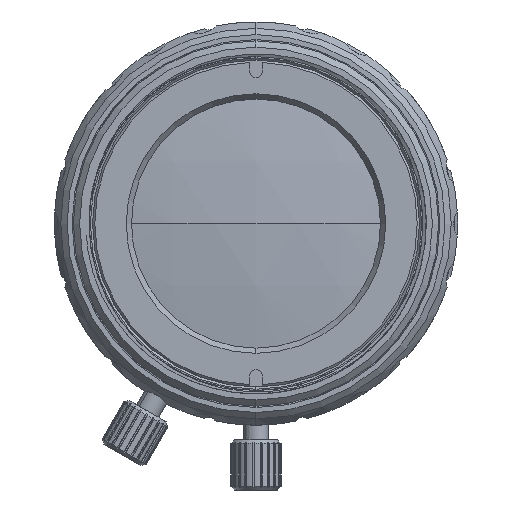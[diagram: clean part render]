
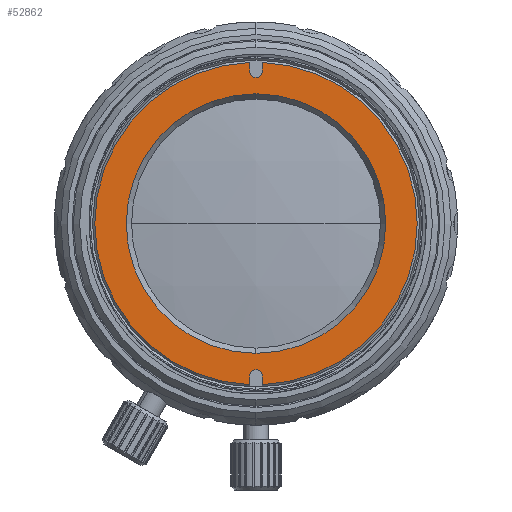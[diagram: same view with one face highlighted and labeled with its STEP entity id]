
A CAD part, left-side view. The second image highlights one B-rep face of the part: STEP entity #52862.
In plain terms, the highlighted planar face has unit normal (-1, 0, 0).
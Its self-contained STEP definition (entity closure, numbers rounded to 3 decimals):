
#585 = EDGE_CURVE ( 'NONE', #16116, #8963, #25397, .T. ) ;
#602 = FACE_OUTER_BOUND ( 'NONE', #9131, .T. ) ;
#715 = ORIENTED_EDGE ( 'NONE', *, *, #2652, .F. ) ;
#878 = DIRECTION ( 'NONE',  ( 0., 0., 1. ) ) ;
#1665 = CARTESIAN_POINT ( 'NONE',  ( -1.528, -0.5, -12.79 ) ) ;
#2154 = EDGE_CURVE ( 'NONE', #16116, #53237, #57843, .T. ) ;
#2541 = EDGE_CURVE ( 'NONE', #4225, #33985, #4818, .T. ) ;
#2652 = EDGE_CURVE ( 'NONE', #43079, #37573, #54237, .T. ) ;
#3490 = AXIS2_PLACEMENT_3D ( 'NONE', #24019, #19629, #50455 ) ;
#3503 = CARTESIAN_POINT ( 'NONE',  ( -1.528, 0.5, 12.1 ) ) ;
#3515 = ORIENTED_EDGE ( 'NONE', *, *, #41484, .T. ) ;
#4225 = VERTEX_POINT ( 'NONE', #37738 ) ;
#4410 = ORIENTED_EDGE ( 'NONE', *, *, #39146, .T. ) ;
#4818 = CIRCLE ( 'NONE', #10483, 0.5 ) ;
#5582 = VECTOR ( 'NONE', #39129, 1000. ) ;
#8193 = CIRCLE ( 'NONE', #3490, 12.8 ) ;
#8963 = VERTEX_POINT ( 'NONE', #3503 ) ;
#9106 = VERTEX_POINT ( 'NONE', #21707 ) ;
#9131 = EDGE_LOOP ( 'NONE', ( #33298, #14573, #40324, #3515, #715, #43018, #21317, #20412, #4410 ) ) ;
#9226 = DIRECTION ( 'NONE',  ( -1., 0., 0. ) ) ;
#10483 = AXIS2_PLACEMENT_3D ( 'NONE', #26361, #30474, #25190 ) ;
#10571 = DIRECTION ( 'NONE',  ( -1., 0., 0. ) ) ;
#11045 = AXIS2_PLACEMENT_3D ( 'NONE', #35362, #9226, #21573 ) ;
#12411 = LINE ( 'NONE', #43845, #5582 ) ;
#13382 = VERTEX_POINT ( 'NONE', #25396 ) ;
#13473 = CARTESIAN_POINT ( 'NONE',  ( -1.528, 0., -11.6 ) ) ;
#14253 = VERTEX_POINT ( 'NONE', #50968 ) ;
#14573 = ORIENTED_EDGE ( 'NONE', *, *, #585, .T. ) ;
#14837 = ORIENTED_EDGE ( 'NONE', *, *, #45795, .F. ) ;
#14978 = CARTESIAN_POINT ( 'NONE',  ( -1.528, 0., 0. ) ) ;
#15932 = DIRECTION ( 'NONE',  ( 0., 0., -1. ) ) ;
#16116 = VERTEX_POINT ( 'NONE', #21052 ) ;
#17620 = DIRECTION ( 'NONE',  ( 0., 0., 1. ) ) ;
#17990 = CIRCLE ( 'NONE', #55480, 10.302 ) ;
#19629 = DIRECTION ( 'NONE',  ( -1., 0., 0. ) ) ;
#20412 = ORIENTED_EDGE ( 'NONE', *, *, #36181, .T. ) ;
#20609 = CARTESIAN_POINT ( 'NONE',  ( -1.528, 0., 12.1 ) ) ;
#21052 = CARTESIAN_POINT ( 'NONE',  ( -1.528, -0.5, 12.1 ) ) ;
#21317 = ORIENTED_EDGE ( 'NONE', *, *, #2541, .F. ) ;
#21573 = DIRECTION ( 'NONE',  ( 0., 0., 1. ) ) ;
#21707 = CARTESIAN_POINT ( 'NONE',  ( -1.528, 0.5, 12.79 ) ) ;
#21925 = CARTESIAN_POINT ( 'NONE',  ( -1.528, 0., -12.1 ) ) ;
#22301 = ORIENTED_EDGE ( 'NONE', *, *, #30683, .F. ) ;
#22370 = EDGE_CURVE ( 'NONE', #33985, #43079, #51871, .T. ) ;
#22475 = LINE ( 'NONE', #53033, #37344 ) ;
#23208 = PLANE ( 'NONE',  #26741 ) ;
#24019 = CARTESIAN_POINT ( 'NONE',  ( -1.528, 0., 0. ) ) ;
#25190 = DIRECTION ( 'NONE',  ( 0., 0., 1. ) ) ;
#25396 = CARTESIAN_POINT ( 'NONE',  ( -1.528, 0., 10.302 ) ) ;
#25397 = CIRCLE ( 'NONE', #44179, 0.5 ) ;
#26337 = DIRECTION ( 'NONE',  ( -1., 0., 0. ) ) ;
#26361 = CARTESIAN_POINT ( 'NONE',  ( -1.528, 0., -12.1 ) ) ;
#26741 = AXIS2_PLACEMENT_3D ( 'NONE', #40828, #10571, #878 ) ;
#29330 = DIRECTION ( 'NONE',  ( -1., 0., 0. ) ) ;
#30142 = VECTOR ( 'NONE', #17620, 1000. ) ;
#30474 = DIRECTION ( 'NONE',  ( -1., 0., 0. ) ) ;
#30683 = EDGE_CURVE ( 'NONE', #13382, #14253, #36348, .T. ) ;
#31912 = DIRECTION ( 'NONE',  ( 0., 0., -1. ) ) ;
#32157 = EDGE_CURVE ( 'NONE', #8963, #9106, #22475, .T. ) ;
#32864 = DIRECTION ( 'NONE',  ( 0., 0., 1. ) ) ;
#32877 = DIRECTION ( 'NONE',  ( -1., 0., 0. ) ) ;
#33298 = ORIENTED_EDGE ( 'NONE', *, *, #2154, .F. ) ;
#33446 = CARTESIAN_POINT ( 'NONE',  ( -1.528, 0., 0. ) ) ;
#33985 = VERTEX_POINT ( 'NONE', #13473 ) ;
#35362 = CARTESIAN_POINT ( 'NONE',  ( -1.528, 0., 0. ) ) ;
#36181 = EDGE_CURVE ( 'NONE', #4225, #57099, #12411, .T. ) ;
#36348 = CIRCLE ( 'NONE', #11045, 10.302 ) ;
#36421 = FACE_BOUND ( 'NONE', #46137, .T. ) ;
#37344 = VECTOR ( 'NONE', #57439, 1000. ) ;
#37573 = VERTEX_POINT ( 'NONE', #46445 ) ;
#37641 = DIRECTION ( 'NONE',  ( 1., 0., 0. ) ) ;
#37738 = CARTESIAN_POINT ( 'NONE',  ( -1.528, -0.5, -12.1 ) ) ;
#39129 = DIRECTION ( 'NONE',  ( 0., 0., -1. ) ) ;
#39146 = EDGE_CURVE ( 'NONE', #57099, #53237, #8193, .T. ) ;
#40324 = ORIENTED_EDGE ( 'NONE', *, *, #32157, .T. ) ;
#40440 = VECTOR ( 'NONE', #31912, 1000. ) ;
#40828 = CARTESIAN_POINT ( 'NONE',  ( -1.528, 0., 0. ) ) ;
#41484 = EDGE_CURVE ( 'NONE', #9106, #37573, #44301, .T. ) ;
#43018 = ORIENTED_EDGE ( 'NONE', *, *, #22370, .F. ) ;
#43079 = VERTEX_POINT ( 'NONE', #50956 ) ;
#43845 = CARTESIAN_POINT ( 'NONE',  ( -1.528, -0.5, 0. ) ) ;
#44179 = AXIS2_PLACEMENT_3D ( 'NONE', #20609, #37641, #15932 ) ;
#44301 = CIRCLE ( 'NONE', #53649, 12.8 ) ;
#45795 = EDGE_CURVE ( 'NONE', #14253, #13382, #17990, .T. ) ;
#46137 = EDGE_LOOP ( 'NONE', ( #22301, #14837 ) ) ;
#46445 = CARTESIAN_POINT ( 'NONE',  ( -1.528, 0.5, -12.79 ) ) ;
#47176 = AXIS2_PLACEMENT_3D ( 'NONE', #21925, #26337, #52165 ) ;
#49540 = CARTESIAN_POINT ( 'NONE',  ( -1.528, 0.5, 0. ) ) ;
#50455 = DIRECTION ( 'NONE',  ( 0., 0., 1. ) ) ;
#50779 = DIRECTION ( 'NONE',  ( 0., 0., 1. ) ) ;
#50956 = CARTESIAN_POINT ( 'NONE',  ( -1.528, 0.5, -12.1 ) ) ;
#50968 = CARTESIAN_POINT ( 'NONE',  ( -1.528, 0., -10.302 ) ) ;
#51871 = CIRCLE ( 'NONE', #47176, 0.5 ) ;
#52165 = DIRECTION ( 'NONE',  ( 0., 0., 1. ) ) ;
#52862 = ADVANCED_FACE ( 'NONE', ( #602, #36421 ), #23208, .T. ) ;
#53033 = CARTESIAN_POINT ( 'NONE',  ( -1.528, 0.5, 0. ) ) ;
#53237 = VERTEX_POINT ( 'NONE', #57912 ) ;
#53649 = AXIS2_PLACEMENT_3D ( 'NONE', #14978, #32877, #50779 ) ;
#53715 = CARTESIAN_POINT ( 'NONE',  ( -1.528, -0.5, 0. ) ) ;
#54237 = LINE ( 'NONE', #49540, #40440 ) ;
#55480 = AXIS2_PLACEMENT_3D ( 'NONE', #33446, #29330, #32864 ) ;
#57099 = VERTEX_POINT ( 'NONE', #1665 ) ;
#57439 = DIRECTION ( 'NONE',  ( 0., 0., 1. ) ) ;
#57843 = LINE ( 'NONE', #53715, #30142 ) ;
#57912 = CARTESIAN_POINT ( 'NONE',  ( -1.528, -0.5, 12.79 ) ) ;
